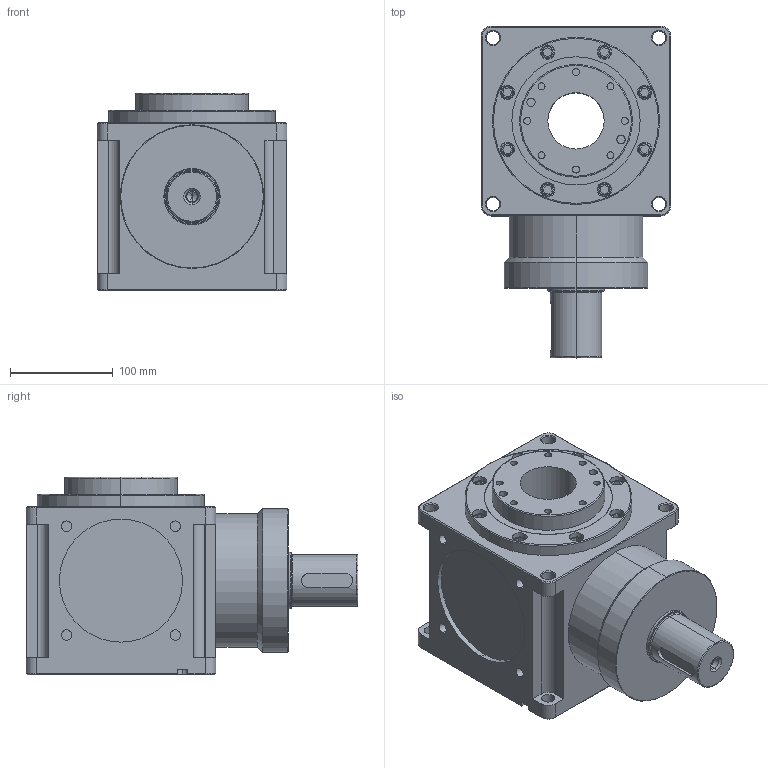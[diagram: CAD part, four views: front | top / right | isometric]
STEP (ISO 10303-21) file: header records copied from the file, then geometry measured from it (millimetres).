
FILE_DESCRIPTION (( 'STEP AP214' ), '1' );
FILE_NAME ('CCT185A-002-RF.STEP', '2025-05-26T05:07:03', ( '微软用户' ), ( '微软中国' ), 'SwSTEP 2.0', 'SolidWorks 2024', '' );
FILE_SCHEMA (( 'AUTOMOTIVE_DESIGN' ));
Length unit declared in the file: millimetre
Products named in the file (1): CCT185A-002-RF
Bounding box: 185 x 323.5 x 193 mm (x, y, z)
Volume: 6081593.2 mm3; surface area: 306224.5 mm2
Topology: 1 solids, 1 shells, 350 faces, 797 edges, 507 vertices
Faces by surface type: plane 149, cylinder 141, cone 34, torus 26
Entity records: 10018 total; most frequent: DIRECTION 1861, CARTESIAN_POINT 1743, ORIENTED_EDGE 1590, EDGE_CURVE 795, AXIS2_PLACEMENT_3D 717, VERTEX_POINT 507, EDGE_LOOP 428, VECTOR 427
